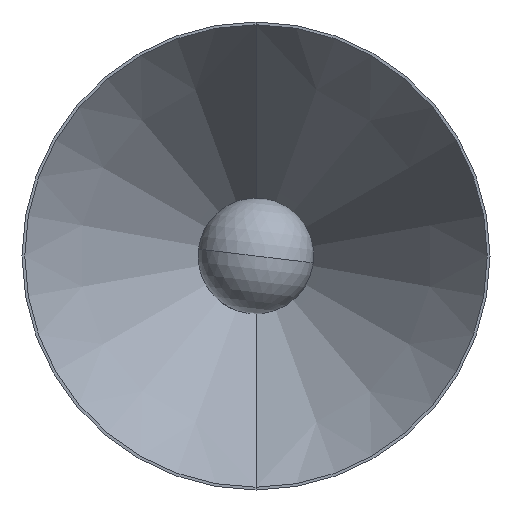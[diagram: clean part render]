
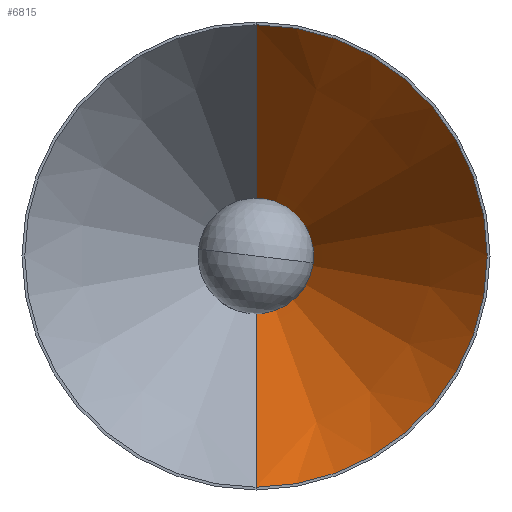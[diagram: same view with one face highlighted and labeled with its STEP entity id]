
A CAD part, front view. The second image highlights one B-rep face of the part: STEP entity #6815.
In plain terms, the highlighted conical face has half-angle 34.308 degrees and reference radius 5.866 mm.
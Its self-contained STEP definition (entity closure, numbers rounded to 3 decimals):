
#9 = FACE_OUTER_BOUND ( 'NONE', #211, .T. ) ;
#211 = EDGE_LOOP ( 'NONE', ( #10832, #6309, #3258, #3286 ) ) ;
#782 = CARTESIAN_POINT ( 'NONE',  ( 0., 11.051, 0. ) ) ;
#792 = AXIS2_PLACEMENT_3D ( 'NONE', #13911, #5460, #8580 ) ;
#1150 = CARTESIAN_POINT ( 'NONE',  ( 0., 12.047, -5.866 ) ) ;
#1222 = DIRECTION ( 'NONE',  ( 0., -0.826, -0.564 ) ) ;
#1623 = DIRECTION ( 'NONE',  ( 0., 1., 0. ) ) ;
#2618 = EDGE_CURVE ( 'NONE', #4584, #4660, #10875, .T. ) ;
#3258 = ORIENTED_EDGE ( 'NONE', *, *, #2618, .T. ) ;
#3280 = AXIS2_PLACEMENT_3D ( 'NONE', #782, #1623, #7098 ) ;
#3286 = ORIENTED_EDGE ( 'NONE', *, *, #11742, .F. ) ;
#3640 = LINE ( 'NONE', #7965, #7319 ) ;
#3830 = CARTESIAN_POINT ( 'NONE',  ( 0., -156.753, 121.047 ) ) ;
#4427 = CONICAL_SURFACE ( 'NONE', #792, 5.866, 0.599 ) ;
#4584 = VERTEX_POINT ( 'NONE', #10859 ) ;
#4660 = VERTEX_POINT ( 'NONE', #12849 ) ;
#5460 = DIRECTION ( 'NONE',  ( 0., -1., 0. ) ) ;
#5806 = VECTOR ( 'NONE', #1222, 1000. ) ;
#5940 = EDGE_CURVE ( 'NONE', #12733, #11440, #3640, .T. ) ;
#6309 = ORIENTED_EDGE ( 'NONE', *, *, #6741, .T. ) ;
#6741 = EDGE_CURVE ( 'NONE', #12733, #4584, #12562, .T. ) ;
#6815 = ADVANCED_FACE ( 'NONE', ( #9 ), #4427, .F. ) ;
#6920 = AXIS2_PLACEMENT_3D ( 'NONE', #9654, #11826, #9725 ) ;
#7098 = DIRECTION ( 'NONE',  ( 0., 0., 1. ) ) ;
#7319 = VECTOR ( 'NONE', #12284, 1000. ) ;
#7965 = CARTESIAN_POINT ( 'NONE',  ( 0., 12.047, 5.866 ) ) ;
#8580 = DIRECTION ( 'NONE',  ( 0., 0., -1. ) ) ;
#8628 = CARTESIAN_POINT ( 'NONE',  ( 0., 11.051, 6.546 ) ) ;
#9654 = CARTESIAN_POINT ( 'NONE',  ( 0., -156.753, 0. ) ) ;
#9725 = DIRECTION ( 'NONE',  ( 0., 0., -1. ) ) ;
#10518 = CIRCLE ( 'NONE', #6920, 121.047 ) ;
#10832 = ORIENTED_EDGE ( 'NONE', *, *, #5940, .F. ) ;
#10859 = CARTESIAN_POINT ( 'NONE',  ( 0., 11.051, -6.546 ) ) ;
#10875 = LINE ( 'NONE', #1150, #5806 ) ;
#11440 = VERTEX_POINT ( 'NONE', #3830 ) ;
#11742 = EDGE_CURVE ( 'NONE', #11440, #4660, #10518, .T. ) ;
#11826 = DIRECTION ( 'NONE',  ( 0., 1., 0. ) ) ;
#12284 = DIRECTION ( 'NONE',  ( 0., -0.826, 0.564 ) ) ;
#12562 = CIRCLE ( 'NONE', #3280, 6.546 ) ;
#12733 = VERTEX_POINT ( 'NONE', #8628 ) ;
#12849 = CARTESIAN_POINT ( 'NONE',  ( 0., -156.753, -121.047 ) ) ;
#13911 = CARTESIAN_POINT ( 'NONE',  ( 0., 12.047, 0. ) ) ;
